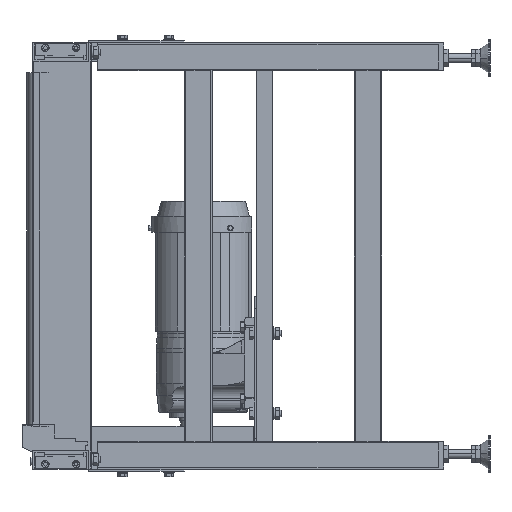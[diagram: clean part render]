
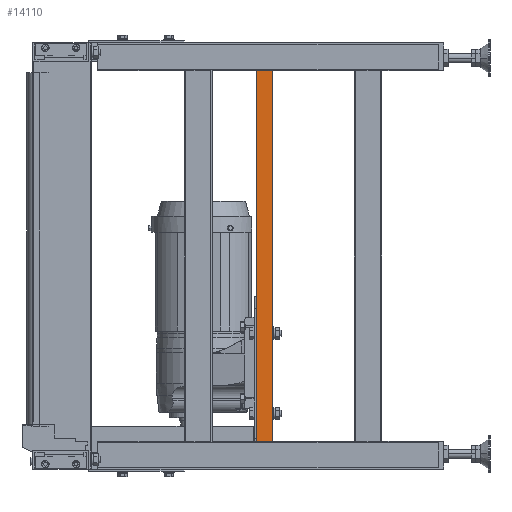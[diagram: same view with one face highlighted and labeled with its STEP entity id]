
A CAD part, left-side view. The second image highlights one B-rep face of the part: STEP entity #14110.
In plain terms, the highlighted planar face has unit normal (-1, 0, 0).
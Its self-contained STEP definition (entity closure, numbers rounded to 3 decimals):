
#3502 = EDGE_CURVE ( 'NONE', #82842, #27728, #121795, .T. ) ;
#3967 = CARTESIAN_POINT ( 'NONE',  ( 2404.5, -372.45, 310.5 ) ) ;
#4353 = CARTESIAN_POINT ( 'NONE',  ( 2404.5, -366.95, -310.5 ) ) ;
#4887 = VECTOR ( 'NONE', #17748, 1000. ) ;
#7196 = CARTESIAN_POINT ( 'NONE',  ( 2404.5, -347.45, -310.5 ) ) ;
#8667 = CARTESIAN_POINT ( 'NONE',  ( 2404.5, -347.45, 315. ) ) ;
#10529 = VECTOR ( 'NONE', #69700, 1000. ) ;
#14110 = ADVANCED_FACE ( 'NONE', ( #71684 ), #48699, .F. ) ;
#14540 = CARTESIAN_POINT ( 'NONE',  ( 2404.5, -397.45, 315. ) ) ;
#15915 = EDGE_CURVE ( 'NONE', #84709, #120098, #112559, .T. ) ;
#17748 = DIRECTION ( 'NONE',  ( 0., -1., 0. ) ) ;
#19526 = CARTESIAN_POINT ( 'NONE',  ( 2404.5, -347.45, 315. ) ) ;
#20887 = VERTEX_POINT ( 'NONE', #80847 ) ;
#22701 = DIRECTION ( 'NONE',  ( 0., -1., 0. ) ) ;
#24879 = ORIENTED_EDGE ( 'NONE', *, *, #54339, .F. ) ;
#25348 = DIRECTION ( 'NONE',  ( 0., -1., 0. ) ) ;
#26864 = EDGE_CURVE ( 'NONE', #84709, #27728, #45640, .T. ) ;
#27728 = VERTEX_POINT ( 'NONE', #65923 ) ;
#30694 = ORIENTED_EDGE ( 'NONE', *, *, #46523, .F. ) ;
#32462 = CARTESIAN_POINT ( 'NONE',  ( 2404.5, -347.45, 310.5 ) ) ;
#32861 = DIRECTION ( 'NONE',  ( 0., 0., 1. ) ) ;
#33941 = LINE ( 'NONE', #47776, #10529 ) ;
#38938 = CARTESIAN_POINT ( 'NONE',  ( 2404.5, -397.45, -310.5 ) ) ;
#40845 = CARTESIAN_POINT ( 'NONE',  ( 2404.5, -347.45, 310.5 ) ) ;
#41073 = LINE ( 'NONE', #40845, #57311 ) ;
#44767 = VERTEX_POINT ( 'NONE', #115142 ) ;
#45640 = LINE ( 'NONE', #83286, #118180 ) ;
#46523 = EDGE_CURVE ( 'NONE', #120098, #20887, #112580, .T. ) ;
#47776 = CARTESIAN_POINT ( 'NONE',  ( 2404.5, -372.45, 310.5 ) ) ;
#48699 = PLANE ( 'NONE',  #105345 ) ;
#50132 = EDGE_CURVE ( 'NONE', #44767, #68338, #79432, .T. ) ;
#51248 = VECTOR ( 'NONE', #32861, 1000. ) ;
#54339 = EDGE_CURVE ( 'NONE', #68338, #82842, #105529, .T. ) ;
#54805 = VECTOR ( 'NONE', #118689, 1000. ) ;
#57311 = VECTOR ( 'NONE', #22701, 1000. ) ;
#57545 = DIRECTION ( 'NONE',  ( 0., 0., -1. ) ) ;
#65923 = CARTESIAN_POINT ( 'NONE',  ( 2404.5, -397.45, -315. ) ) ;
#66966 = VECTOR ( 'NONE', #57545, 1000. ) ;
#68338 = VERTEX_POINT ( 'NONE', #19526 ) ;
#69700 = DIRECTION ( 'NONE',  ( 0., 0., -1. ) ) ;
#70075 = EDGE_CURVE ( 'NONE', #44767, #116228, #41073, .T. ) ;
#70121 = CARTESIAN_POINT ( 'NONE',  ( 2404.5, -366.95, -310.5 ) ) ;
#71684 = FACE_OUTER_BOUND ( 'NONE', #98890, .T. ) ;
#75877 = ORIENTED_EDGE ( 'NONE', *, *, #113002, .T. ) ;
#78090 = DIRECTION ( 'NONE',  ( 1., 0., 0. ) ) ;
#79432 = LINE ( 'NONE', #32462, #51248 ) ;
#80847 = CARTESIAN_POINT ( 'NONE',  ( 2404.5, -372.45, -310.5 ) ) ;
#80968 = ORIENTED_EDGE ( 'NONE', *, *, #50132, .F. ) ;
#82842 = VERTEX_POINT ( 'NONE', #14540 ) ;
#83286 = CARTESIAN_POINT ( 'NONE',  ( 2404.5, -347.45, -315. ) ) ;
#84364 = CARTESIAN_POINT ( 'NONE',  ( 2404.5, -366.95, -315. ) ) ;
#84709 = VERTEX_POINT ( 'NONE', #84364 ) ;
#89390 = ORIENTED_EDGE ( 'NONE', *, *, #3502, .F. ) ;
#94595 = ORIENTED_EDGE ( 'NONE', *, *, #26864, .T. ) ;
#98890 = EDGE_LOOP ( 'NONE', ( #118527, #94595, #89390, #24879, #80968, #120345, #75877, #30694 ) ) ;
#102305 = VECTOR ( 'NONE', #25348, 1000. ) ;
#102361 = DIRECTION ( 'NONE',  ( 0., -1., 0. ) ) ;
#105345 = AXIS2_PLACEMENT_3D ( 'NONE', #106260, #78090, #114928 ) ;
#105529 = LINE ( 'NONE', #8667, #4887 ) ;
#106260 = CARTESIAN_POINT ( 'NONE',  ( 2404.5, -347.45, -310.5 ) ) ;
#112559 = LINE ( 'NONE', #4353, #54805 ) ;
#112580 = LINE ( 'NONE', #7196, #102305 ) ;
#113002 = EDGE_CURVE ( 'NONE', #116228, #20887, #33941, .T. ) ;
#114928 = DIRECTION ( 'NONE',  ( 0., 0., -1. ) ) ;
#115142 = CARTESIAN_POINT ( 'NONE',  ( 2404.5, -347.45, 310.5 ) ) ;
#116228 = VERTEX_POINT ( 'NONE', #3967 ) ;
#118180 = VECTOR ( 'NONE', #102361, 1000. ) ;
#118527 = ORIENTED_EDGE ( 'NONE', *, *, #15915, .F. ) ;
#118689 = DIRECTION ( 'NONE',  ( 0., 0., 1. ) ) ;
#120098 = VERTEX_POINT ( 'NONE', #70121 ) ;
#120345 = ORIENTED_EDGE ( 'NONE', *, *, #70075, .T. ) ;
#121795 = LINE ( 'NONE', #38938, #66966 ) ;
